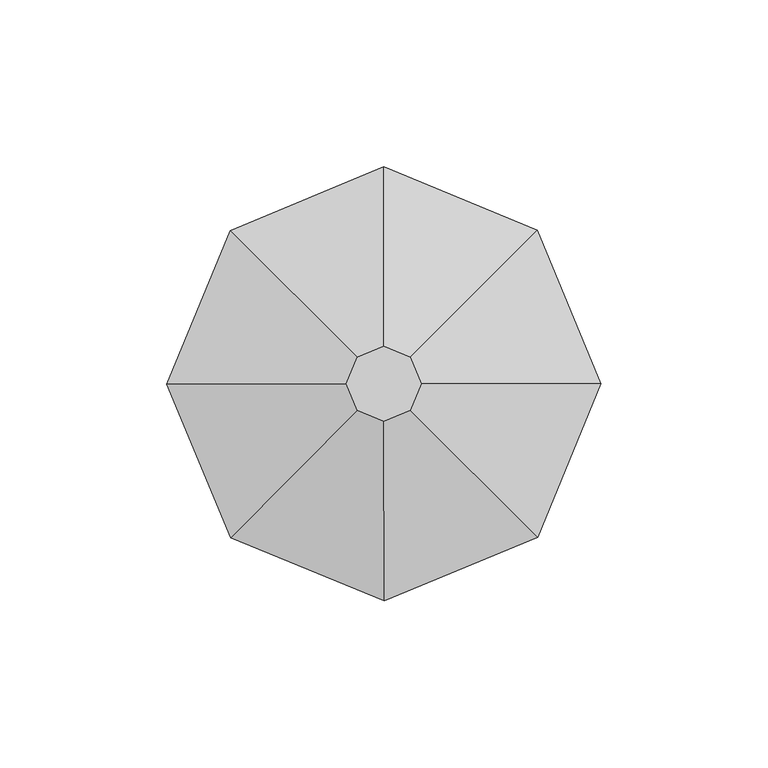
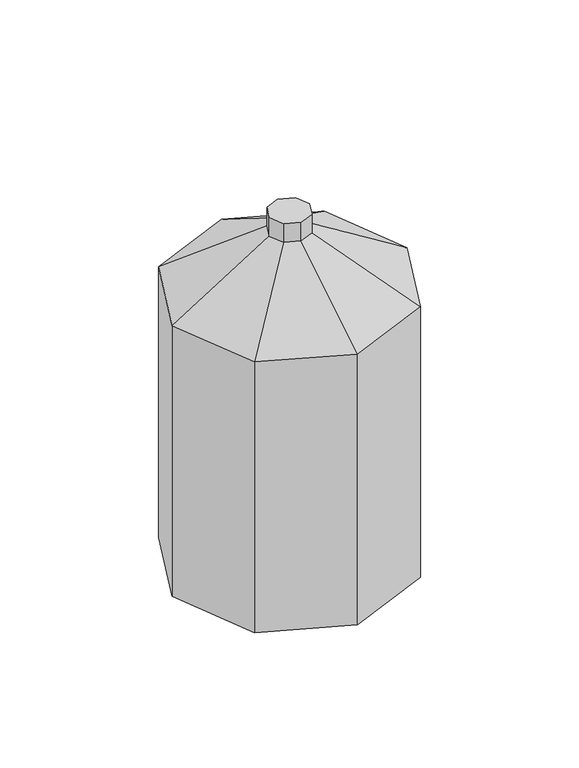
"""IFC4 building model written with IfcOpenShell, lengths in millimetres: geographic element geometry, Enscape AssetDefinition - Vase 042 Gypsophila : Enscape AssetDefinition - Vase 042 Gypsophila."""

import ifcopenshell
import ifcopenshell.guid

model = None  # the IFC model being written
_history = None  # IfcOwnerHistory: only IFC2X3 demands one
_inside = {}  # id of a spatial element -> (the spatial element, [elements in it])
_under = {}  # id of a project, library or spatial element -> (it, [spatial elements below it])
_declared = {}  # id of a project -> (the project, [libraries it declares])
_typed = {}  # id of a type object -> (the type object, [elements of that type])
_made_of = {}  # id of a material, layer set ... -> (it, [elements and type objects made of it])


def new_model(schema):
    """Start an empty IFC model of exactly this schema.

    Asked for "IFC4X3", IfcOpenShell would pick the latest addendum, in which some entities
    have other attributes; the version numbers below select the first issue.
    IFC2X3 requires an IfcOwnerHistory on every rooted entity: one is made here for all.
    """
    global model, _history
    if schema == "IFC4X3":
        model = ifcopenshell.file(schema_version=(4, 3, 0, 0))
    else:
        model = ifcopenshell.file(schema=schema)
    _inside.clear()
    _under.clear()
    _declared.clear()
    _typed.clear()
    _made_of.clear()
    _history = None
    if model.schema == "IFC2X3":
        org = make("IfcOrganization", Name="unknown")
        user = make(
            "IfcPersonAndOrganization",
            ThePerson=make("IfcPerson", FamilyName="unknown"),
            TheOrganization=org,
        )
        app = make(
            "IfcApplication",
            ApplicationDeveloper=org,
            Version="unknown",
            ApplicationFullName="unknown",
            ApplicationIdentifier="unknown",
        )
        _history = make(
            "IfcOwnerHistory",
            OwningUser=user,
            OwningApplication=app,
            ChangeAction="ADDED",
            CreationDate=0,
        )
    return model


def make(cls, **values):
    """One entity of the class cls with the attributes given. An attribute that is None is left unset."""
    return model.create_entity(
        cls, **{name: value for name, value in values.items() if value is not None}
    )


def rooted(cls, **values):
    """An entity with a GlobalId (a new one), such as an element, a storey or a relation."""
    return make(cls, GlobalId=ifcopenshell.guid.new(), OwnerHistory=_history, **values)


def si_unit(unit_type, name, prefix=None):
    """IfcSIUnit, for example si_unit("LENGTHUNIT", "METRE", prefix="MILLI")."""
    return make("IfcSIUnit", UnitType=unit_type, Prefix=prefix, Name=name)


def assignment(units):
    """IfcUnitAssignment: the units of a project."""
    return None if units is None else make("IfcUnitAssignment", Units=units)


def point(xyz):
    """IfcCartesianPoint."""
    return None if xyz is None else make("IfcCartesianPoint", Coordinates=xyz)


def direction(xyz):
    """IfcDirection."""
    return None if xyz is None else make("IfcDirection", DirectionRatios=xyz)


def frame(location, z_axis=None, x_axis=None):
    """IfcAxis2Placement3D, a coordinate frame: its origin and axes. An axis left out is left unset."""
    return make(
        "IfcAxis2Placement3D",
        Location=point(location),
        Axis=direction(z_axis),
        RefDirection=direction(x_axis),
    )


def origin():
    """The frame at (0, 0, 0) with its axes left unset."""
    return frame((0.0, 0.0, 0.0))


def place(relative_to, where):
    """IfcLocalPlacement: puts the frame where relative to a parent placement (None: the world)."""
    return make(
        "IfcLocalPlacement", PlacementRelTo=relative_to, RelativePlacement=where
    )


def context(
    kind, dimensions, precision=None, world=None, true_north=None, identifier=None
):
    """IfcGeometricRepresentationContext, for example the 3D "Model" context."""
    return make(
        "IfcGeometricRepresentationContext",
        ContextIdentifier=identifier,
        ContextType=kind,
        CoordinateSpaceDimension=dimensions,
        Precision=precision,
        WorldCoordinateSystem=world,
        TrueNorth=true_north,
    )


def project(units=None, contexts=None):
    """IfcProject with its units and contexts."""
    return rooted(
        "IfcProject",
        Name="project",
        RepresentationContexts=contexts,
        UnitsInContext=assignment(units),
    )


def spatial(cls, under=None, at=None, **own):
    """A site, building, storey or space (cls), placed at a placement, below another one or the project."""
    s = rooted(cls, ObjectPlacement=at, **own)
    if under is not None:
        _under.setdefault(under.id(), (under, []))[1].append(s)
    return s


def point_list(points):
    """IfcCartesianPointList2D or 3D."""
    cls = (
        "IfcCartesianPointList2D" if len(points[0]) == 2 else "IfcCartesianPointList3D"
    )
    return make(cls, CoordList=points)


def triangles(points, corners, closed=None, point_numbers=None):
    """IfcTriangulatedFaceSet: each triangle names its three corners, points numbered from 1."""
    return make(
        "IfcTriangulatedFaceSet",
        Coordinates=point_list(points),
        Closed=closed,
        CoordIndex=corners,
        PnIndex=point_numbers,
    )


def shape(context_of_items, identifier, shape_type, items):
    """IfcShapeRepresentation: the items that make up one representation, for example the "Body"."""
    return make(
        "IfcShapeRepresentation",
        ContextOfItems=context_of_items,
        RepresentationIdentifier=identifier,
        RepresentationType=shape_type,
        Items=items,
    )


def source(mapping_origin, context_of_items, identifier, shape_type, items):
    """IfcRepresentationMap: a shape defined once, which mapped items show again and again."""
    return make(
        "IfcRepresentationMap",
        MappingOrigin=mapping_origin,
        MappedRepresentation=shape(context_of_items, identifier, shape_type, items),
    )


def transform(
    local_origin,
    x_axis=None,
    y_axis=None,
    z_axis=None,
    scale=None,
    scale2=None,
    scale3=None,
    uniform=True,
):
    """IfcCartesianTransformationOperator3D, or its non-uniform kind. x_axis, y_axis, z_axis: its Axis1, 2, 3."""
    if uniform:
        return make(
            "IfcCartesianTransformationOperator3D",
            Axis1=direction(x_axis),
            Axis2=direction(y_axis),
            LocalOrigin=point(local_origin),
            Scale=scale,
            Axis3=direction(z_axis),
        )
    return make(
        "IfcCartesianTransformationOperator3DnonUniform",
        Axis1=direction(x_axis),
        Axis2=direction(y_axis),
        LocalOrigin=point(local_origin),
        Scale=scale,
        Axis3=direction(z_axis),
        Scale2=scale2,
        Scale3=scale3,
    )


def mapped(mapping_source, mapping_target):
    """IfcMappedItem: shows the shape of a source again, moved by a transform."""
    return make(
        "IfcMappedItem", MappingSource=mapping_source, MappingTarget=mapping_target
    )


def made_of(thing, what):
    """Note that an element or type object is made of a material, layer set ...; save() writes the relation."""
    if what is not None:
        _made_of.setdefault(what.id(), (what, []))[1].append(thing)
    return thing


def element(
    cls,
    number,
    at=None,
    inside=None,
    cuts=None,
    type_object=None,
    material=None,
    context=None,
    identifier="Body",
    shape_type=None,
    held_by="IfcProductDefinitionShape",
    body=None,
    shapes=None,
    **own,
):
    """One element of the class cls, such as IfcWall. Its Tag is "e" and its number.

    at: its placement. inside: the storey or other place that contains it. cuts: it is an
    opening in that element (IfcRelVoidsElement). A single representation is given by context,
    identifier, shape_type and body (its items); several are given by shapes. held_by: the class
    of the entity that holds the representations. save() writes the other relations.
    """
    e = rooted(cls, Tag="e%d" % number, ObjectPlacement=at, **own)
    if body is not None:
        shapes = [shape(context, identifier, shape_type, body)]
    if shapes is not None:
        e.Representation = make(held_by, Representations=shapes)
    if inside is not None:
        _inside.setdefault(inside.id(), (inside, []))[1].append(e)
    if cuts is not None:
        rooted(
            "IfcRelVoidsElement", RelatingBuildingElement=cuts, RelatedOpeningElement=e
        )
    if type_object is not None:
        _typed.setdefault(type_object.id(), (type_object, []))[1].append(e)
    return made_of(e, material)


def aggregate(whole, parts):
    """IfcRelAggregates: a whole, such as a stair, and the parts it consists of."""
    return rooted("IfcRelAggregates", RelatingObject=whole, RelatedObjects=parts)


def save(model, path):
    """Write the relations noted so far, then the file.

    IfcRelAggregates (storeys below a building ...), IfcRelContainedInSpatialStructure (elements
    in a storey), IfcRelDefinesByType, IfcRelAssociatesMaterial and IfcRelDeclares: one each for
    every whole, place, type object, material and project.
    """
    for whole, parts in _under.values():
        aggregate(whole, parts)
    for where, things in _inside.values():
        rooted(
            "IfcRelContainedInSpatialStructure",
            RelatedElements=things,
            RelatingStructure=where,
        )
    for kind, things in _typed.values():
        rooted("IfcRelDefinesByType", RelatedObjects=things, RelatingType=kind)
    for what, things in _made_of.values():
        rooted("IfcRelAssociatesMaterial", RelatedObjects=things, RelatingMaterial=what)
    for by, libraries in _declared.values():
        rooted("IfcRelDeclares", RelatingContext=by, RelatedDefinitions=libraries)
    model.write(path)


def geographic_element_98d2575c(model_context):
    return source(origin(), model_context, "Body", "Tessellation", [
        triangles([(-7.9329999, -7.9450001, 202.7789925), (0.008, -11.2269991, 191.8700109), (45.9959979, -45.9280015, 158.317008), (-7.9329999, -7.9450001, 191.8700109), (0.008, -11.2269991, 202.7789925), (0.048, -64.9999978, 158.317008), (45.9959979, -45.9280015, 0.0), (0.048, -64.9999978, 0.0), (64.9999978, 0.048, 0.0), (-45.9280015, -45.9959979, 0.0), (-64.9999978, -0.048, 0.0), (-64.9999978, -0.048, 158.317008), (-45.9959979, 45.9280015, 0.0), (-45.9280015, -45.9959979, 158.317008), (-11.2269991, -0.008, 191.8700109), (-45.9959979, 45.9280015, 158.317008), (-0.008, 11.2269991, 202.7789925), (-0.008, 11.2269991, 191.8700109), (-7.9450001, 7.9329999, 191.8700109), (-0.048, 64.9999978, 158.317008), (-0.048, 64.9999978, 0.0), (45.9280015, 45.9959979, 158.317008), (11.2269991, 0.008, 202.7789925), (7.9329999, 7.9450001, 202.7789925), (7.9329999, 7.9450001, 191.8700109), (45.9280015, 45.9959979, 0.0), (64.9999978, 0.048, 158.317008), (11.2269991, 0.008, 191.8700109), (-7.9450001, 7.9329999, 202.7789925), (-11.2269991, -0.008, 202.7789925), (7.9450001, -7.9329999, 191.8700109), (7.9450001, -7.9329999, 202.7789925)], [[30, 1, 5], [30, 4, 1], [5, 32, 30], [5, 31, 32], [32, 23, 30], [29, 30, 23], [32, 31, 28], [28, 31, 3], [32, 28, 23], [3, 9, 27], [28, 3, 27], [27, 9, 26], [26, 9, 13], [13, 21, 26], [22, 26, 21], [27, 26, 22], [23, 28, 25], [25, 28, 27], [25, 27, 22], [23, 25, 24], [17, 29, 23], [23, 24, 17], [24, 25, 18], [18, 25, 22], [24, 18, 17], [20, 21, 13], [22, 21, 20], [18, 22, 20], [17, 18, 19], [19, 18, 20], [17, 19, 29], [29, 19, 15], [30, 15, 4], [29, 15, 30], [15, 19, 16], [20, 13, 16], [19, 20, 16], [4, 15, 12], [15, 16, 12], [4, 12, 14], [16, 13, 11], [16, 11, 12], [12, 11, 10], [12, 10, 14], [11, 13, 7], [10, 11, 7], [3, 7, 9], [9, 7, 13], [7, 8, 10], [14, 10, 8], [6, 8, 7], [6, 7, 3], [14, 8, 6], [5, 2, 31], [2, 6, 3], [1, 4, 2], [2, 4, 14], [2, 3, 31], [1, 2, 5], [2, 14, 6]]),
    ])


if __name__ == "__main__":
    model = new_model("IFC4")
    model_context = context("Model", 3, world=origin())
    ifc_project = project(units=[si_unit("LENGTHUNIT", "METRE", prefix="MILLI")], contexts=[model_context])
    site = spatial("IfcSite", under=ifc_project)
    building = spatial("IfcBuilding", under=site)
    placement = place(None, origin())
    geographic_element_shape = geographic_element_98d2575c(model_context)
    element("IfcGeographicElement", 1, ObjectType="Enscape AssetDefinition - Vase 042 Gypsophila : Enscape AssetDefinition - Vase 042 Gypsophila", at=placement, inside=building, context=model_context, shape_type="MappedRepresentation", body=[
        mapped(geographic_element_shape, transform((0.0, 0.0, 0.0), x_axis=(1.0, 0.0, 0.0), y_axis=(0.0, 1.0, 0.0), z_axis=(0.0, 0.0, 1.0))),
    ])
    save(model, "model.ifc")
